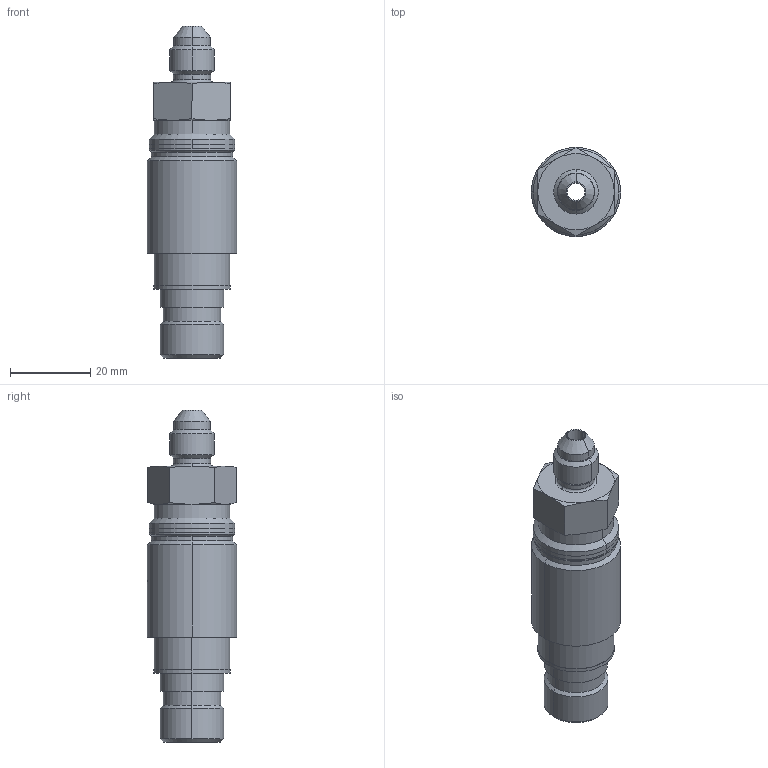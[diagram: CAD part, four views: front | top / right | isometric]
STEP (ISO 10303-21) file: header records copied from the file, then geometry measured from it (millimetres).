
FILE_DESCRIPTION (( 'STEP AP214' ), '1' );
FILE_NAME ('P11B-TYPE.STEP', '2008-01-31T15:34:43', ( 'Authorized User' ), ( 'Precision Sensors' ), 'SwSTEP 2.0', 'SolidWorks 2006303', '' );
FILE_SCHEMA (( 'AUTOMOTIVE_DESIGN' ));
Length unit declared in the file: inch
Products named in the file (1): P11B-TYPE
Bounding box: 22.23 x 22.23 x 82.75 mm (x, y, z)
Surface area: 6898.2 mm2 (no closed solid volume)
Topology: 0 solids, 5 shells, 99 faces, 220 edges, 134 vertices
Faces by surface type: cylinder 39, cone 30, plane 22, torus 8
Entity records: 4135 total; most frequent: CARTESIAN_POINT 610, DIRECTION 512, ORIENTED_EDGE 414, EDGE_CURVE 220, AXIS2_PLACEMENT_3D 220, VERTEX_POINT 134, CIRCLE 120, EDGE_LOOP 113
